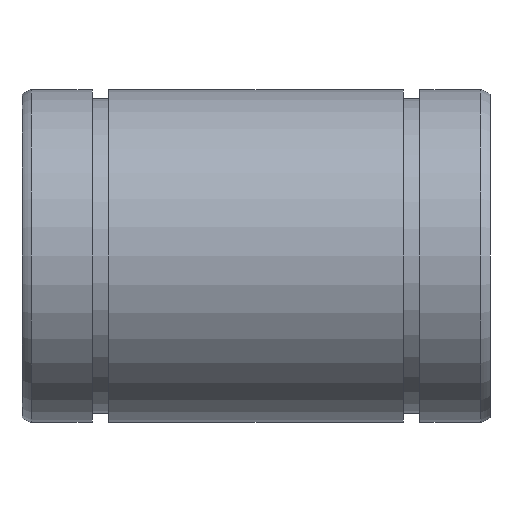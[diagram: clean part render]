
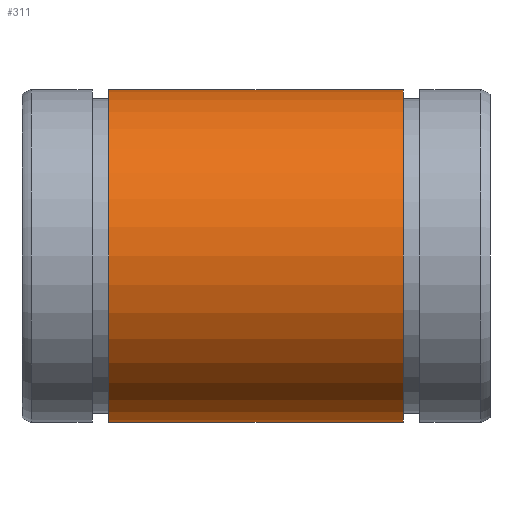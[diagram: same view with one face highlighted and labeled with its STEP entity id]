
A CAD part, front view. The second image highlights one B-rep face of the part: STEP entity #311.
In plain terms, the highlighted cylindrical face has radius 16 mm (diameter 32 mm), a full revolution.
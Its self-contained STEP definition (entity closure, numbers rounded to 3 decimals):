
#277=CARTESIAN_POINT('',(36.65,0.0,16.));
#278=VERTEX_POINT('',#277);
#279=CARTESIAN_POINT('',(36.65,0.0,0.));
#280=DIRECTION('',(-1.0,0.0,0.0));
#281=DIRECTION('',(0.0,0.0,1.0));
#282=AXIS2_PLACEMENT_3D('',#279,#280,#281);
#283=CIRCLE('',#282,16.);
#284=EDGE_CURVE('',#278,#278,#283,.T.);
#292=CARTESIAN_POINT('',(22.5,0.0,0.));
#293=DIRECTION('',(-1.0,0.0,0.0));
#294=DIRECTION('',(0.0,0.0,1.0));
#295=AXIS2_PLACEMENT_3D('',#292,#293,#294);
#296=CYLINDRICAL_SURFACE('',#295,16.);
#297=CARTESIAN_POINT('',(8.35,0.0,16.));
#298=VERTEX_POINT('',#297);
#299=CARTESIAN_POINT('',(8.35,0.0,0.));
#300=DIRECTION('',(-1.0,0.0,0.0));
#301=DIRECTION('',(0.0,0.0,1.0));
#302=AXIS2_PLACEMENT_3D('',#299,#300,#301);
#303=CIRCLE('',#302,16.);
#304=EDGE_CURVE('',#298,#298,#303,.T.);
#305=ORIENTED_EDGE('',*,*,#304,.F.);
#306=EDGE_LOOP('',(#305));
#307=FACE_OUTER_BOUND('',#306,.T.);
#308=ORIENTED_EDGE('',*,*,#284,.T.);
#309=EDGE_LOOP('',(#308));
#310=FACE_BOUND('',#309,.T.);
#311=ADVANCED_FACE('',(#307,#310),#296,.T.);
